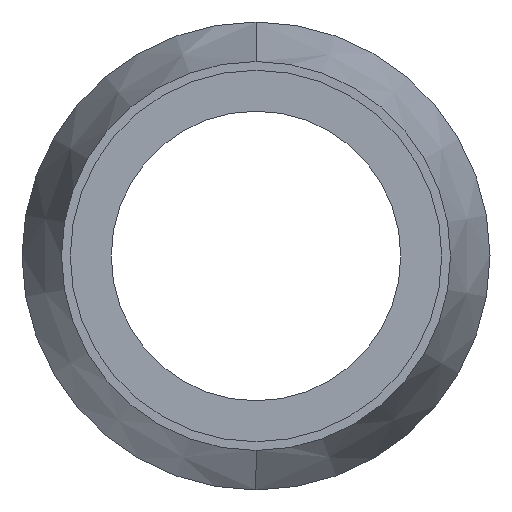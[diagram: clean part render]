
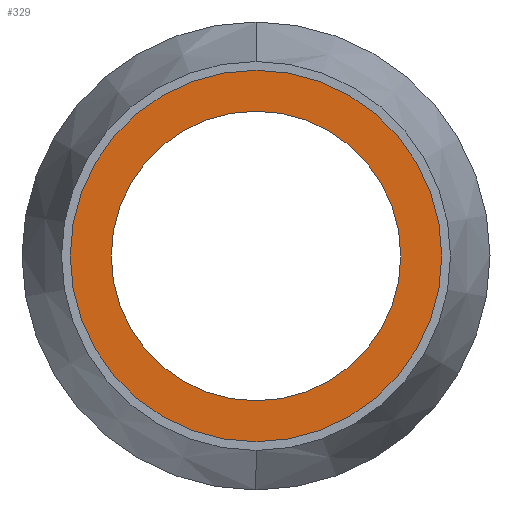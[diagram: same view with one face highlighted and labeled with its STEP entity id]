
A CAD part, left-side view. The second image highlights one B-rep face of the part: STEP entity #329.
In plain terms, the highlighted planar face has unit normal (-1, 0, 0).
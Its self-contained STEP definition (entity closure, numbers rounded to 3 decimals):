
#10 = VERTEX_POINT ( 'NONE', #180 ) ;
#63 = EDGE_CURVE ( 'NONE', #64, #65, #288, .T. ) ;
#64 = VERTEX_POINT ( 'NONE', #278 ) ;
#65 = VERTEX_POINT ( 'NONE', #277 ) ;
#180 = CARTESIAN_POINT ( 'NONE',  ( 2.8, 0., -6.35 ) ) ;
#277 = CARTESIAN_POINT ( 'NONE',  ( 2.8, 0., -4.95 ) ) ;
#278 = CARTESIAN_POINT ( 'NONE',  ( 2.8, 0., 4.95 ) ) ;
#279 = DIRECTION ( 'NONE',  ( 0., 0., -1. ) ) ;
#280 = DIRECTION ( 'NONE',  ( 1., 0., 0. ) ) ;
#281 = CARTESIAN_POINT ( 'NONE',  ( 2.8, 0., 0. ) ) ;
#282 = AXIS2_PLACEMENT_3D ( 'NONE', #281, #280, #279 ) ;
#288 = CIRCLE ( 'NONE', #282, 4.95 ) ;
#328 = EDGE_CURVE ( 'NONE', #10, #343, #585, .T. ) ;
#329 = ADVANCED_FACE ( 'NONE', ( #577, #576 ), #575, .F. ) ;
#330 = EDGE_LOOP ( 'NONE', ( #331, #333 ) ) ;
#331 = ORIENTED_EDGE ( 'NONE', *, *, #332, .T. ) ;
#332 = EDGE_CURVE ( 'NONE', #65, #64, #573, .T. ) ;
#333 = ORIENTED_EDGE ( 'NONE', *, *, #63, .T. ) ;
#334 = EDGE_LOOP ( 'NONE', ( #335, #336 ) ) ;
#335 = ORIENTED_EDGE ( 'NONE', *, *, #342, .T. ) ;
#336 = ORIENTED_EDGE ( 'NONE', *, *, #328, .T. ) ;
#342 = EDGE_CURVE ( 'NONE', #343, #10, #529, .T. ) ;
#343 = VERTEX_POINT ( 'NONE', #524 ) ;
#524 = CARTESIAN_POINT ( 'NONE',  ( 2.8, 0., 6.35 ) ) ;
#525 = DIRECTION ( 'NONE',  ( 0., 0., 1. ) ) ;
#526 = DIRECTION ( 'NONE',  ( -1., 0., 0. ) ) ;
#527 = CARTESIAN_POINT ( 'NONE',  ( 2.8, 0., 0. ) ) ;
#528 = AXIS2_PLACEMENT_3D ( 'NONE', #527, #526, #525 ) ;
#529 = CIRCLE ( 'NONE', #528, 6.35 ) ;
#536 = DIRECTION ( 'NONE',  ( 0., 0., -1. ) ) ;
#567 = DIRECTION ( 'NONE',  ( 1., 0., 0. ) ) ;
#568 = CARTESIAN_POINT ( 'NONE',  ( 2.8, 0., 0. ) ) ;
#569 = AXIS2_PLACEMENT_3D ( 'NONE', #568, #567, #536 ) ;
#570 = DIRECTION ( 'NONE',  ( 0., 0., -1. ) ) ;
#571 = DIRECTION ( 'NONE',  ( 1., 0., 0. ) ) ;
#572 = AXIS2_PLACEMENT_3D ( 'NONE', #574, #571, #570 ) ;
#573 = CIRCLE ( 'NONE', #569, 4.95 ) ;
#574 = CARTESIAN_POINT ( 'NONE',  ( 2.8, 0., 0. ) ) ;
#575 = PLANE ( 'NONE',  #572 ) ;
#576 = FACE_OUTER_BOUND ( 'NONE', #334, .T. ) ;
#577 = FACE_BOUND ( 'NONE', #330, .T. ) ;
#578 = DIRECTION ( 'NONE',  ( 0., 0., 1. ) ) ;
#579 = DIRECTION ( 'NONE',  ( -1., 0., 0. ) ) ;
#580 = CARTESIAN_POINT ( 'NONE',  ( 2.8, 0., 0. ) ) ;
#581 = AXIS2_PLACEMENT_3D ( 'NONE', #580, #579, #578 ) ;
#585 = CIRCLE ( 'NONE', #581, 6.35 ) ;
